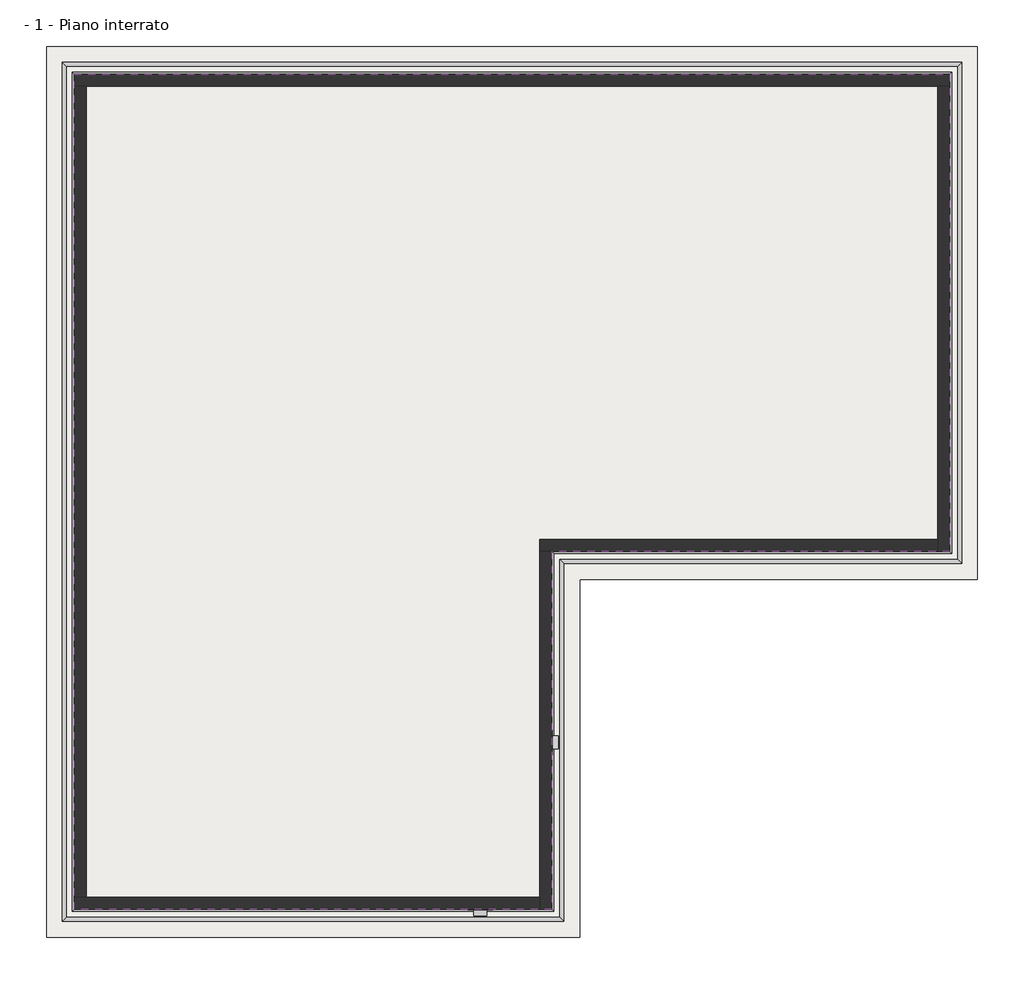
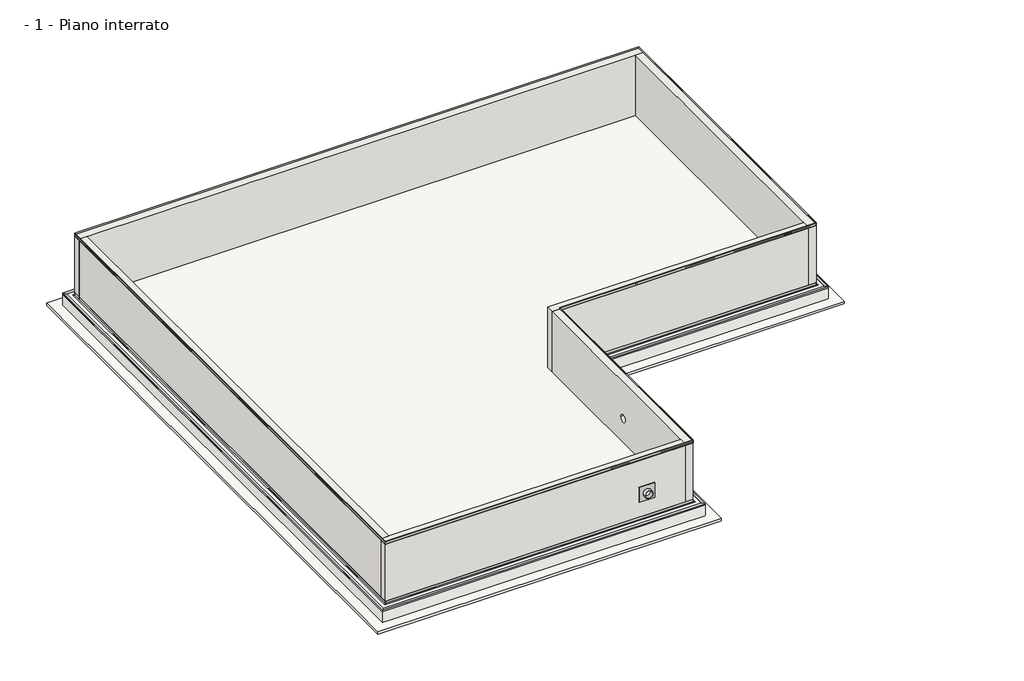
# One storey: 7 proxies, 6 walls, 2 slabs.
"""IFC4 building model written with IfcOpenShell, lengths in millimetres."""

import ifcopenshell
import ifcopenshell.guid

model = None  # the IFC model being written
_history = None  # IfcOwnerHistory: only IFC2X3 demands one
_inside = {}  # id of a spatial element -> (the spatial element, [elements in it])
_under = {}  # id of a project, library or spatial element -> (it, [spatial elements below it])
_declared = {}  # id of a project -> (the project, [libraries it declares])
_typed = {}  # id of a type object -> (the type object, [elements of that type])
_made_of = {}  # id of a material, layer set ... -> (it, [elements and type objects made of it])


def new_model(schema):
    """Start an empty IFC model of exactly this schema.

    Asked for "IFC4X3", IfcOpenShell would pick the latest addendum, in which some entities
    have other attributes; the version numbers below select the first issue.
    IFC2X3 requires an IfcOwnerHistory on every rooted entity: one is made here for all.
    """
    global model, _history
    if schema == "IFC4X3":
        model = ifcopenshell.file(schema_version=(4, 3, 0, 0))
    else:
        model = ifcopenshell.file(schema=schema)
    _inside.clear()
    _under.clear()
    _declared.clear()
    _typed.clear()
    _made_of.clear()
    _history = None
    if model.schema == "IFC2X3":
        org = make("IfcOrganization", Name="unknown")
        user = make(
            "IfcPersonAndOrganization",
            ThePerson=make("IfcPerson", FamilyName="unknown"),
            TheOrganization=org,
        )
        app = make(
            "IfcApplication",
            ApplicationDeveloper=org,
            Version="unknown",
            ApplicationFullName="unknown",
            ApplicationIdentifier="unknown",
        )
        _history = make(
            "IfcOwnerHistory",
            OwningUser=user,
            OwningApplication=app,
            ChangeAction="ADDED",
            CreationDate=0,
        )
    return model


def make(cls, **values):
    """One entity of the class cls with the attributes given. An attribute that is None is left unset."""
    return model.create_entity(
        cls, **{name: value for name, value in values.items() if value is not None}
    )


def rooted(cls, **values):
    """An entity with a GlobalId (a new one), such as an element, a storey or a relation."""
    return make(cls, GlobalId=ifcopenshell.guid.new(), OwnerHistory=_history, **values)


def si_unit(unit_type, name, prefix=None):
    """IfcSIUnit, for example si_unit("LENGTHUNIT", "METRE", prefix="MILLI")."""
    return make("IfcSIUnit", UnitType=unit_type, Prefix=prefix, Name=name)


def assignment(units):
    """IfcUnitAssignment: the units of a project."""
    return None if units is None else make("IfcUnitAssignment", Units=units)


def point(xyz):
    """IfcCartesianPoint."""
    return None if xyz is None else make("IfcCartesianPoint", Coordinates=xyz)


def direction(xyz):
    """IfcDirection."""
    return None if xyz is None else make("IfcDirection", DirectionRatios=xyz)


def frame(location, z_axis=None, x_axis=None):
    """IfcAxis2Placement3D, a coordinate frame: its origin and axes. An axis left out is left unset."""
    return make(
        "IfcAxis2Placement3D",
        Location=point(location),
        Axis=direction(z_axis),
        RefDirection=direction(x_axis),
    )


def frame_2d(location, x_axis=None):
    """IfcAxis2Placement2D, a coordinate frame in the plane: its origin and x axis."""
    return make(
        "IfcAxis2Placement2D", Location=point(location), RefDirection=direction(x_axis)
    )


def origin():
    """The frame at (0, 0, 0) with its axes left unset."""
    return frame((0.0, 0.0, 0.0))


def origin_with_axes():
    """The frame at (0, 0, 0) with the z axis (0, 0, 1) and the x axis (1, 0, 0) written out."""
    return frame((0.0, 0.0, 0.0), z_axis=(0.0, 0.0, 1.0), x_axis=(1.0, 0.0, 0.0))


def origin_2d():
    """The frame at (0, 0) in the plane with its x axis left unset."""
    return frame_2d((0.0, 0.0))


def place(relative_to, where):
    """IfcLocalPlacement: puts the frame where relative to a parent placement (None: the world)."""
    return make(
        "IfcLocalPlacement", PlacementRelTo=relative_to, RelativePlacement=where
    )


def context(
    kind, dimensions, precision=None, world=None, true_north=None, identifier=None
):
    """IfcGeometricRepresentationContext, for example the 3D "Model" context."""
    return make(
        "IfcGeometricRepresentationContext",
        ContextIdentifier=identifier,
        ContextType=kind,
        CoordinateSpaceDimension=dimensions,
        Precision=precision,
        WorldCoordinateSystem=world,
        TrueNorth=true_north,
    )


def project(units=None, contexts=None):
    """IfcProject with its units and contexts."""
    return rooted(
        "IfcProject",
        Name="project",
        RepresentationContexts=contexts,
        UnitsInContext=assignment(units),
    )


def spatial(cls, under=None, at=None, **own):
    """A site, building, storey or space (cls), placed at a placement, below another one or the project."""
    s = rooted(cls, ObjectPlacement=at, **own)
    if under is not None:
        _under.setdefault(under.id(), (under, []))[1].append(s)
    return s


def polyline(points):
    """IfcPolyline through the points."""
    return make("IfcPolyline", Points=[point(p) for p in points])


def circle_curve(where, radius):
    """IfcCircle in the frame where."""
    return make("IfcCircle", Position=where, Radius=radius)


def trimmed(basis, trim1, trim2, sense, master):
    """IfcTrimmedCurve: the piece of a basis curve between two trims."""
    return make(
        "IfcTrimmedCurve",
        BasisCurve=basis,
        Trim1=trim1,
        Trim2=trim2,
        SenseAgreement=sense,
        MasterRepresentation=master,
    )


def segment(curve, same_sense, transition):
    """IfcCompositeCurveSegment."""
    return make(
        "IfcCompositeCurveSegment",
        Transition=transition,
        SameSense=same_sense,
        ParentCurve=curve,
    )


def composite_curve(segments, self_intersect=None):
    """IfcCompositeCurve: segments joined end to end."""
    return make("IfcCompositeCurve", Segments=segments, SelfIntersect=self_intersect)


def outline(outer, holes=None, kind="AREA"):
    """IfcArbitraryClosedProfileDef: a profile drawn as a closed curve; with holes, ...WithVoids."""
    if holes is None:
        return make("IfcArbitraryClosedProfileDef", ProfileType=kind, OuterCurve=outer)
    return make(
        "IfcArbitraryProfileDefWithVoids",
        ProfileType=kind,
        OuterCurve=outer,
        InnerCurves=holes,
    )


def extrude(swept, where, along, depth):
    """IfcExtrudedAreaSolid: the profile swept, set in the frame where, extruded along a direction by depth."""
    return make(
        "IfcExtrudedAreaSolid",
        SweptArea=swept,
        Position=where,
        ExtrudedDirection=direction(along),
        Depth=depth,
    )


def faces_of(points, faces, orient=None, outer=None):
    """IfcFace entities. A face is a list of loops; a loop is a list of indices into points, from 0.

    orient and outer hold one flag for each loop. By default every Orientation is true, the
    first loop of a face is its IfcFaceOuterBound and the others are IfcFaceBound.
    """
    made = []
    for i, loops in enumerate(faces):
        bounds = []
        for j, loop in enumerate(loops):
            is_outer = j == 0 if outer is None else outer[i][j]
            bounds.append(
                make(
                    "IfcFaceOuterBound" if is_outer else "IfcFaceBound",
                    Bound=make("IfcPolyLoop", Polygon=[points[k] for k in loop]),
                    Orientation=True if orient is None else orient[i][j],
                )
            )
        made.append(make("IfcFace", Bounds=bounds))
    return made


def faceted_brep(points, faces, orient=None, outer=None, voids=None):
    """IfcFacetedBrep: a solid bounded by flat faces; with voids (closed shells), ...WithVoids."""
    shared = [point(p) for p in points]
    hull = make("IfcClosedShell", CfsFaces=faces_of(shared, faces, orient, outer))
    if voids is None:
        return make("IfcFacetedBrep", Outer=hull)
    return make(
        "IfcFacetedBrepWithVoids",
        Outer=hull,
        Voids=[
            make(cls, CfsFaces=faces_of(shared, fs, o, b)) for cls, fs, o, b in voids
        ],
    )


def shape(context_of_items, identifier, shape_type, items):
    """IfcShapeRepresentation: the items that make up one representation, for example the "Body"."""
    return make(
        "IfcShapeRepresentation",
        ContextOfItems=context_of_items,
        RepresentationIdentifier=identifier,
        RepresentationType=shape_type,
        Items=items,
    )


def source(mapping_origin, context_of_items, identifier, shape_type, items):
    """IfcRepresentationMap: a shape defined once, which mapped items show again and again."""
    return make(
        "IfcRepresentationMap",
        MappingOrigin=mapping_origin,
        MappedRepresentation=shape(context_of_items, identifier, shape_type, items),
    )


def transform(
    local_origin,
    x_axis=None,
    y_axis=None,
    z_axis=None,
    scale=None,
    scale2=None,
    scale3=None,
    uniform=True,
):
    """IfcCartesianTransformationOperator3D, or its non-uniform kind. x_axis, y_axis, z_axis: its Axis1, 2, 3."""
    if uniform:
        return make(
            "IfcCartesianTransformationOperator3D",
            Axis1=direction(x_axis),
            Axis2=direction(y_axis),
            LocalOrigin=point(local_origin),
            Scale=scale,
            Axis3=direction(z_axis),
        )
    return make(
        "IfcCartesianTransformationOperator3DnonUniform",
        Axis1=direction(x_axis),
        Axis2=direction(y_axis),
        LocalOrigin=point(local_origin),
        Scale=scale,
        Axis3=direction(z_axis),
        Scale2=scale2,
        Scale3=scale3,
    )


def mapped(mapping_source, mapping_target):
    """IfcMappedItem: shows the shape of a source again, moved by a transform."""
    return make(
        "IfcMappedItem", MappingSource=mapping_source, MappingTarget=mapping_target
    )


def made_of(thing, what):
    """Note that an element or type object is made of a material, layer set ...; save() writes the relation."""
    if what is not None:
        _made_of.setdefault(what.id(), (what, []))[1].append(thing)
    return thing


def element(
    cls,
    number,
    at=None,
    inside=None,
    cuts=None,
    type_object=None,
    material=None,
    context=None,
    identifier="Body",
    shape_type=None,
    held_by="IfcProductDefinitionShape",
    body=None,
    shapes=None,
    **own,
):
    """One element of the class cls, such as IfcWall. Its Tag is "e" and its number.

    at: its placement. inside: the storey or other place that contains it. cuts: it is an
    opening in that element (IfcRelVoidsElement). A single representation is given by context,
    identifier, shape_type and body (its items); several are given by shapes. held_by: the class
    of the entity that holds the representations. save() writes the other relations.
    """
    e = rooted(cls, Tag="e%d" % number, ObjectPlacement=at, **own)
    if body is not None:
        shapes = [shape(context, identifier, shape_type, body)]
    if shapes is not None:
        e.Representation = make(held_by, Representations=shapes)
    if inside is not None:
        _inside.setdefault(inside.id(), (inside, []))[1].append(e)
    if cuts is not None:
        rooted(
            "IfcRelVoidsElement", RelatingBuildingElement=cuts, RelatedOpeningElement=e
        )
    if type_object is not None:
        _typed.setdefault(type_object.id(), (type_object, []))[1].append(e)
    return made_of(e, material)


def aggregate(whole, parts):
    """IfcRelAggregates: a whole, such as a stair, and the parts it consists of."""
    return rooted("IfcRelAggregates", RelatingObject=whole, RelatedObjects=parts)


def save(model, path):
    """Write the relations noted so far, then the file.

    IfcRelAggregates (storeys below a building ...), IfcRelContainedInSpatialStructure (elements
    in a storey), IfcRelDefinesByType, IfcRelAssociatesMaterial and IfcRelDeclares: one each for
    every whole, place, type object, material and project.
    """
    for whole, parts in _under.values():
        aggregate(whole, parts)
    for where, things in _inside.values():
        rooted(
            "IfcRelContainedInSpatialStructure",
            RelatedElements=things,
            RelatingStructure=where,
        )
    for kind, things in _typed.values():
        rooted("IfcRelDefinesByType", RelatedObjects=things, RelatingType=kind)
    for what, things in _made_of.values():
        rooted("IfcRelAssociatesMaterial", RelatedObjects=things, RelatingMaterial=what)
    for by, libraries in _declared.values():
        rooted("IfcRelDeclares", RelatingContext=by, RelatedDefinitions=libraries)
    model.write(path)


def plane_surface(at):
    """IfcPlane: the flat surface through the origin of the frame at, square to its z axis."""
    return make("IfcPlane", Position=at)


def revolved_surface(curve, axis_point, axis_direction):
    """IfcSurfaceOfRevolution: the curve turned about the line through axis_point along axis_direction."""
    return make(
        "IfcSurfaceOfRevolution",
        SweptCurve=make("IfcArbitraryOpenProfileDef", ProfileType="CURVE", Curve=curve),
        AxisPosition=make("IfcAxis1Placement", Location=point(axis_point), Axis=direction(axis_direction)),
    )


def advanced_brep(points, edges, surfaces, faces):
    """IfcAdvancedBrep: a solid bounded by faces that lie on surfaces and meet in shared edges.

    An edge is (start, end): straight between two places in points (the first is 0);
    or (start, end, curve); or (start, end, curve, False) where it runs against its curve.
    A face is (place in surfaces, loops), or (place, loops, False) where it looks against
    its surface's normal. A loop lists edges by number (the first is 1), with a minus sign
    where the edge is run from its end to its start. The first loop is the outer one.
    """
    corners = [point(p) for p in points]
    vertices = [make("IfcVertexPoint", VertexGeometry=c) for c in corners]
    made = []
    for start, end, *more in edges:
        made.append(
            make(
                "IfcEdgeCurve",
                EdgeStart=vertices[start],
                EdgeEnd=vertices[end],
                EdgeGeometry=more[0] if more else make("IfcPolyline", Points=[corners[start], corners[end]]),
                SameSense=more[1] if len(more) > 1 else True,
            )
        )
    hull = []
    for where, loops, *sense in faces:
        bounds = []
        for j, loop in enumerate(loops):
            ring = [make("IfcOrientedEdge", EdgeElement=made[abs(k) - 1], Orientation=k > 0) for k in loop]
            bounds.append(
                make(
                    "IfcFaceOuterBound" if j == 0 else "IfcFaceBound",
                    Bound=make("IfcEdgeLoop", EdgeList=ring),
                    Orientation=True,
                )
            )
        hull.append(make("IfcAdvancedFace", Bounds=bounds, FaceSurface=surfaces[where], SameSense=sense[0] if sense else True))
    return make("IfcAdvancedBrep", Outer=make("IfcClosedShell", CfsFaces=hull))


def generic_models_91e2fdae(model_context):
    return source(origin(), model_context, "Body", "SweptSolid", [
        extrude(outline(composite_curve([segment(trimmed(circle_curve(origin_2d(), 160.0), [point((-160.0, 0.0))], [point((160.0, 0.0))], False, "CARTESIAN"), True, "CONTINUOUS"), segment(trimmed(circle_curve(origin_2d(), 160.0), [point((160.0, 0.0))], [point((-160.0, 0.0))], False, "CARTESIAN"), True, "CONTINUOUS")], self_intersect=False), holes=[composite_curve([segment(trimmed(circle_curve(origin_2d(), 150.0), [point((-150.0, 0.0))], [point((150.0, 0.0))], True, "CARTESIAN"), True, "CONTINUOUS"), segment(trimmed(circle_curve(origin_2d(), 150.0), [point((150.0, 0.0))], [point((-150.0, 0.0))], True, "CARTESIAN"), True, "CONTINUOUS")], self_intersect=False)]), frame((0.0, 0.0, 10.0), z_axis=(0.0, 0.0, 1.0), x_axis=(1.0, 0.0, 0.0)), (0.0, 0.0, 1.0), 150.0),
        extrude(outline(polyline([(310.0, 310.0), (310.0, -310.0), (-310.0, -310.0), (-310.0, 310.0), (310.0, 310.0)]), holes=[composite_curve([segment(trimmed(circle_curve(origin_2d(), 150.0), [point((-150.0, 0.0))], [point((150.0, 0.0))], True, "CARTESIAN"), True, "CONTINUOUS"), segment(trimmed(circle_curve(origin_2d(), 150.0), [point((150.0, 0.0))], [point((-150.0, 0.0))], True, "CARTESIAN"), True, "CONTINUOUS")], self_intersect=False)]), origin_with_axes(), (0.0, 0.0, 1.0), 10.0),
    ])


model = new_model("IFC4")

# Units and contexts
model_context = context("Model", 3, world=origin())
ifc_project = project(units=[si_unit("LENGTHUNIT", "METRE", prefix="MILLI")], contexts=[model_context])

# Site, building, storey
site = spatial("IfcSite", under=ifc_project)
building = spatial("IfcBuilding", under=site)
storey = spatial("IfcBuildingStorey", under=building, Name="- 1 - Piano interrato", Elevation=-2500.0)

# Proxies
placement = place(None, origin())
element("IfcBuildingElementProxy", 1, Name="AMPHIBIA CORNER 90° VOLTECO", ObjectType="AMPHIBIA CORNER 90° VOLTECO", at=placement, inside=storey, context=model_context, shape_type="Brep", body=[
    faceted_brep([(14482.2184345, 11190.2450177, -2550.0), (14481.2184345, 11189.2450177, -2550.0), (-8118.7815655, 11189.2450177, -2550.0), (-8119.7815655, 11190.2450177, -2550.0), (14482.2184345, 11190.2450177, -2499.0), (-8119.7815655, 11190.2450177, -2499.0), (14381.2184345, 11089.2450177, -2499.0), (-8018.7815655, 11089.2450177, -2499.0), (14381.2184345, 11089.2450177, -2500.0), (-8018.7815655, 11089.2450177, -2500.0), (14481.2184345, 11189.2450177, -2500.0), (-8118.7815655, 11189.2450177, -2500.0), (-8118.7815655, -10410.7549823, -2550.0), (-8119.7815655, -10411.7549823, -2550.0), (-8119.7815655, -10411.7549823, -2499.0), (-8018.7815655, -10310.7549823, -2499.0), (-8018.7815655, -10310.7549823, -2500.0), (-8118.7815655, -10410.7549823, -2500.0), (4481.2184345, -10410.7549823, -2550.0), (4482.2184345, -10411.7549823, -2550.0), (4482.2184345, -10411.7549823, -2499.0), (4381.2184345, -10310.7549823, -2499.0), (4381.2184345, -10310.7549823, -2500.0), (4481.2184345, -10410.7549823, -2500.0), (4481.2184345, -1410.7549823, -2550.0), (4482.2184345, -1411.7549823, -2550.0), (4482.2184345, -1411.7549823, -2499.0), (4381.2184345, -1310.7549823, -2499.0), (4381.2184345, -1310.7549823, -2500.0), (4481.2184345, -1410.7549823, -2500.0), (14481.2184345, -1410.7549823, -2550.0), (14482.2184345, -1411.7549823, -2550.0), (14482.2184345, -1411.7549823, -2499.0), (14381.2184345, -1310.7549823, -2499.0), (14381.2184345, -1310.7549823, -2500.0), (14481.2184345, -1410.7549823, -2500.0)], [[[0, 1, 2, 3]], [[4, 0, 3, 5]], [[6, 4, 5, 7]], [[8, 6, 7, 9]], [[10, 8, 9, 11]], [[1, 10, 11, 2]], [[3, 2, 12, 13]], [[5, 3, 13, 14]], [[7, 5, 14, 15]], [[9, 7, 15, 16]], [[11, 9, 16, 17]], [[2, 11, 17, 12]], [[13, 12, 18, 19]], [[14, 13, 19, 20]], [[15, 14, 20, 21]], [[16, 15, 21, 22]], [[17, 16, 22, 23]], [[12, 17, 23, 18]], [[19, 18, 24, 25]], [[20, 19, 25, 26]], [[21, 20, 26, 27]], [[22, 21, 27, 28]], [[23, 22, 28, 29]], [[18, 23, 29, 24]], [[25, 24, 30, 31]], [[26, 25, 31, 32]], [[27, 26, 32, 33]], [[28, 27, 33, 34]], [[29, 28, 34, 35]], [[24, 29, 35, 30]], [[1, 0, 31, 30]], [[0, 4, 32, 31]], [[4, 6, 33, 32]], [[6, 8, 34, 33]], [[8, 10, 35, 34]], [[10, 1, 30, 35]]]),
])
element("IfcBuildingElementProxy", 2, Name="AKTI-VO 201 VOLTECO", ObjectType="AKTI-VO 201 VOLTECO", at=placement, inside=storey, context=model_context, shape_type="SweptSolid", body=[
    extrude(outline(polyline([(14205.1184345, 10913.1450177), (14206.1184345, 10914.1450177), (14206.1184345, -1135.6549823), (14205.1184345, -1134.6549823), (14205.1184345, 10913.1450177)])), frame((0.0, 0.0, -2500.0), z_axis=(0.0, 0.0, 1.0), x_axis=(1.0, 0.0, 0.0)), (0.0, 0.0, 1.0), 1.0),
    extrude(outline(polyline([(14205.1184345, -1134.6549823), (14206.1184345, -1135.6549823), (4206.1184345, -1135.6549823), (4205.1184345, -1134.6549823), (14205.1184345, -1134.6549823)])), frame((0.0, 0.0, -2500.0), z_axis=(0.0, 0.0, 1.0), x_axis=(1.0, 0.0, 0.0)), (0.0, 0.0, 1.0), 1.0),
    extrude(outline(polyline([(4205.1184345, -1134.6549823), (4206.1184345, -1135.6549823), (4206.1184345, -10135.6549823), (4205.1184345, -10134.6549823), (4205.1184345, -1134.6549823)])), frame((0.0, 0.0, -2500.0), z_axis=(0.0, 0.0, 1.0), x_axis=(1.0, 0.0, 0.0)), (0.0, 0.0, 1.0), 1.0),
    extrude(outline(polyline([(4205.1184345, -10134.6549823), (4206.1184345, -10135.6549823), (-7843.6815655, -10135.6549823), (-7842.6815655, -10134.6549823), (4205.1184345, -10134.6549823)])), frame((0.0, 0.0, -2500.0), z_axis=(0.0, 0.0, 1.0), x_axis=(1.0, 0.0, 0.0)), (0.0, 0.0, 1.0), 1.0),
    extrude(outline(polyline([(-7842.6815655, 10913.1450177), (-7843.6815655, 10914.1450177), (14206.1184345, 10914.1450177), (14205.1184345, 10913.1450177), (-7842.6815655, 10913.1450177)])), frame((0.0, 0.0, -2500.0), z_axis=(0.0, 0.0, 1.0), x_axis=(1.0, 0.0, 0.0)), (0.0, 0.0, 1.0), 1.0),
    extrude(outline(polyline([(-7842.6815655, -10134.6549823), (-7843.6815655, -10135.6549823), (-7843.6815655, 10914.1450177), (-7842.6815655, 10913.1450177), (-7842.6815655, -10134.6549823)])), frame((0.0, 0.0, -2500.0), z_axis=(0.0, 0.0, 1.0), x_axis=(1.0, 0.0, 0.0)), (0.0, 0.0, 1.0), 1.0),
])
element("IfcBuildingElementProxy", 3, Name="AMPHIBIA CORNER 270° VOLTECO", ObjectType="AMPHIBIA CORNER 270° VOLTECO", at=placement, inside=storey, context=model_context, shape_type="Brep", body=[
    faceted_brep([(14232.2184345, 10940.2450177, -2498.0), (14232.2184345, 10940.2450177, -2499.0), (14181.2184345, 10889.2450177, -2499.0), (14181.2184345, 10889.2450177, -2398.0), (14182.2184345, 10890.2450177, -2398.0), (14182.2184345, 10890.2450177, -2498.0), (14232.2184345, -1161.7549823, -2498.0), (14182.2184345, -1111.7549823, -2498.0), (14182.2184345, -1111.7549823, -2398.0), (14181.2184345, -1110.7549823, -2398.0), (14181.2184345, -1110.7549823, -2499.0), (14232.2184345, -1161.7549823, -2499.0)], [[[0, 1, 2, 3, 4, 5]], [[6, 7, 8, 9, 10, 11]], [[1, 0, 6, 11]], [[2, 1, 11, 10]], [[3, 2, 10, 9]], [[4, 3, 9, 8]], [[5, 4, 8, 7]], [[0, 5, 7, 6]]]),
    faceted_brep([(-7869.7815655, 10940.2450177, -2498.0), (-7869.7815655, 10940.2450177, -2499.0), (-7818.7815655, 10889.2450177, -2499.0), (-7818.7815655, 10889.2450177, -2398.0), (-7819.7815655, 10890.2450177, -2398.0), (-7819.7815655, 10890.2450177, -2498.0), (14232.2184345, 10940.2450177, -2498.0), (14182.2184345, 10890.2450177, -2498.0), (14182.2184345, 10890.2450177, -2398.0), (14181.2184345, 10889.2450177, -2398.0), (14181.2184345, 10889.2450177, -2499.0), (14232.2184345, 10940.2450177, -2499.0)], [[[0, 1, 2, 3, 4, 5]], [[6, 7, 8, 9, 10, 11]], [[1, 0, 6, 11]], [[2, 1, 11, 10]], [[3, 2, 10, 9]], [[4, 3, 9, 8]], [[5, 4, 8, 7]], [[0, 5, 7, 6]]]),
    faceted_brep([(-7869.7815655, -10161.7549823, -2498.0), (-7869.7815655, -10161.7549823, -2499.0), (-7818.7815655, -10110.7549823, -2499.0), (-7818.7815655, -10110.7549823, -2398.0), (-7819.7815655, -10111.7549823, -2398.0), (-7819.7815655, -10111.7549823, -2498.0), (-7869.7815655, 10940.2450177, -2498.0), (-7819.7815655, 10890.2450177, -2498.0), (-7819.7815655, 10890.2450177, -2398.0), (-7818.7815655, 10889.2450177, -2398.0), (-7818.7815655, 10889.2450177, -2499.0), (-7869.7815655, 10940.2450177, -2499.0)], [[[0, 1, 2, 3, 4, 5]], [[6, 7, 8, 9, 10, 11]], [[1, 0, 6, 11]], [[2, 1, 11, 10]], [[3, 2, 10, 9]], [[4, 3, 9, 8]], [[5, 4, 8, 7]], [[0, 5, 7, 6]]]),
    faceted_brep([(4232.2184345, -10161.7549823, -2498.0), (4232.2184345, -10161.7549823, -2499.0), (4181.2184345, -10110.7549823, -2499.0), (4181.2184345, -10110.7549823, -2398.0), (4182.2184345, -10111.7549823, -2398.0), (4182.2184345, -10111.7549823, -2498.0), (-7869.7815655, -10161.7549823, -2498.0), (-7819.7815655, -10111.7549823, -2498.0), (-7819.7815655, -10111.7549823, -2398.0), (-7818.7815655, -10110.7549823, -2398.0), (-7818.7815655, -10110.7549823, -2499.0), (-7869.7815655, -10161.7549823, -2499.0)], [[[0, 1, 2, 3, 4, 5]], [[6, 7, 8, 9, 10, 11]], [[1, 0, 6, 11]], [[2, 1, 11, 10]], [[3, 2, 10, 9]], [[4, 3, 9, 8]], [[5, 4, 8, 7]], [[0, 5, 7, 6]]]),
    faceted_brep([(4232.2184345, -1161.7549823, -2498.0), (4232.2184345, -1161.7549823, -2499.0), (4181.2184345, -1110.7549823, -2499.0), (4181.2184345, -1110.7549823, -2398.0), (4182.2184345, -1111.7549823, -2398.0), (4182.2184345, -1111.7549823, -2498.0), (4232.2184345, -10161.7549823, -2498.0), (4182.2184345, -10111.7549823, -2498.0), (4182.2184345, -10111.7549823, -2398.0), (4181.2184345, -10110.7549823, -2398.0), (4181.2184345, -10110.7549823, -2499.0), (4232.2184345, -10161.7549823, -2499.0)], [[[0, 1, 2, 3, 4, 5]], [[6, 7, 8, 9, 10, 11]], [[1, 0, 6, 11]], [[2, 1, 11, 10]], [[3, 2, 10, 9]], [[4, 3, 9, 8]], [[5, 4, 8, 7]], [[0, 5, 7, 6]]]),
    faceted_brep([(14232.2184345, -1161.7549823, -2498.0), (14232.2184345, -1161.7549823, -2499.0), (14181.2184345, -1110.7549823, -2499.0), (14181.2184345, -1110.7549823, -2398.0), (14182.2184345, -1111.7549823, -2398.0), (14182.2184345, -1111.7549823, -2498.0), (4232.2184345, -1161.7549823, -2498.0), (4182.2184345, -1111.7549823, -2498.0), (4182.2184345, -1111.7549823, -2398.0), (4181.2184345, -1110.7549823, -2398.0), (4181.2184345, -1110.7549823, -2499.0), (4232.2184345, -1161.7549823, -2499.0)], [[[0, 1, 2, 3, 4, 5]], [[6, 7, 8, 9, 10, 11]], [[1, 0, 6, 11]], [[2, 1, 11, 10]], [[3, 2, 10, 9]], [[4, 3, 9, 8]], [[5, 4, 8, 7]], [[0, 5, 7, 6]]]),
])
element("IfcBuildingElementProxy", 4, Name="Sistema Bi Flex H 10 lineare", ObjectType="Sistema Bi Flex H 10 lineare", at=placement, inside=storey, context=model_context, shape_type="Brep", body=[
    faceted_brep([(4181.2184345, -1110.7549823, 62.0), (4183.7184345, -1113.2549823, 59.5), (4183.7184345, -1113.2549823, 52.5), (4184.7184345, -1114.2549823, 51.0), (4184.7184345, -1114.2549823, -49.0), (4183.7184345, -1113.2549823, -50.5), (4183.7184345, -1113.2549823, -57.5), (4181.2184345, -1110.7549823, -60.0), (4182.2184345, -1111.7549823, 51.0), (4182.2184345, -1111.7549823, -49.0), (4183.2184345, -1112.7549823, -49.0), (4183.2184345, -1112.7549823, 51.0), (4181.2184345, -10110.7549823, 62.0), (4181.2184345, -10110.7549823, -60.0), (4183.7184345, -10113.2549823, -57.5), (4183.7184345, -10113.2549823, -50.5), (4184.7184345, -10114.2549823, -49.0), (4184.7184345, -10114.2549823, 51.0), (4183.7184345, -10113.2549823, 52.5), (4183.7184345, -10113.2549823, 59.5), (4182.2184345, -10111.7549823, 51.0), (4183.2184345, -10112.7549823, 51.0), (4183.2184345, -10112.7549823, -49.0), (4182.2184345, -10111.7549823, -49.0)], [[[0, 1, 2, 3, 4, 5, 6, 7], [8, 9, 10, 11]], [[12, 13, 14, 15, 16, 17, 18, 19], [20, 21, 22, 23]], [[1, 0, 12, 19]], [[2, 1, 19, 18]], [[3, 2, 18, 17]], [[4, 3, 17, 16]], [[5, 4, 16, 15]], [[6, 5, 15, 14]], [[7, 6, 14, 13]], [[0, 7, 13, 12]], [[9, 8, 20, 23]], [[10, 9, 23, 22]], [[11, 10, 22, 21]], [[8, 11, 21, 20]]]),
    faceted_brep([(14181.2184345, -1110.7549823, 62.0), (14183.7184345, -1113.2549823, 59.5), (14183.7184345, -1113.2549823, 52.5), (14184.7184345, -1114.2549823, 51.0), (14184.7184345, -1114.2549823, -49.0), (14183.7184345, -1113.2549823, -50.5), (14183.7184345, -1113.2549823, -57.5), (14181.2184345, -1110.7549823, -60.0), (14182.2184345, -1111.7549823, 51.0), (14182.2184345, -1111.7549823, -49.0), (14183.2184345, -1112.7549823, -49.0), (14183.2184345, -1112.7549823, 51.0), (4181.2184345, -1110.7549823, 62.0), (4181.2184345, -1110.7549823, -60.0), (4183.7184345, -1113.2549823, -57.5), (4183.7184345, -1113.2549823, -50.5), (4184.7184345, -1114.2549823, -49.0), (4184.7184345, -1114.2549823, 51.0), (4183.7184345, -1113.2549823, 52.5), (4183.7184345, -1113.2549823, 59.5), (4182.2184345, -1111.7549823, 51.0), (4183.2184345, -1112.7549823, 51.0), (4183.2184345, -1112.7549823, -49.0), (4182.2184345, -1111.7549823, -49.0)], [[[0, 1, 2, 3, 4, 5, 6, 7], [8, 9, 10, 11]], [[12, 13, 14, 15, 16, 17, 18, 19], [20, 21, 22, 23]], [[1, 0, 12, 19]], [[2, 1, 19, 18]], [[3, 2, 18, 17]], [[4, 3, 17, 16]], [[5, 4, 16, 15]], [[6, 5, 15, 14]], [[7, 6, 14, 13]], [[0, 7, 13, 12]], [[9, 8, 20, 23]], [[10, 9, 23, 22]], [[11, 10, 22, 21]], [[8, 11, 21, 20]]]),
    faceted_brep([(14181.2184345, 10889.2450177, 62.0), (14183.7184345, 10891.7450177, 59.5), (14183.7184345, 10891.7450177, 52.5), (14184.7184345, 10892.7450177, 51.0), (14184.7184345, 10892.7450177, -49.0), (14183.7184345, 10891.7450177, -50.5), (14183.7184345, 10891.7450177, -57.5), (14181.2184345, 10889.2450177, -60.0), (14182.2184345, 10890.2450177, 51.0), (14182.2184345, 10890.2450177, -49.0), (14183.2184345, 10891.2450177, -49.0), (14183.2184345, 10891.2450177, 51.0), (14181.2184345, -1110.7549823, 62.0), (14181.2184345, -1110.7549823, -60.0), (14183.7184345, -1113.2549823, -57.5), (14183.7184345, -1113.2549823, -50.5), (14184.7184345, -1114.2549823, -49.0), (14184.7184345, -1114.2549823, 51.0), (14183.7184345, -1113.2549823, 52.5), (14183.7184345, -1113.2549823, 59.5), (14182.2184345, -1111.7549823, 51.0), (14183.2184345, -1112.7549823, 51.0), (14183.2184345, -1112.7549823, -49.0), (14182.2184345, -1111.7549823, -49.0)], [[[0, 1, 2, 3, 4, 5, 6, 7], [8, 9, 10, 11]], [[12, 13, 14, 15, 16, 17, 18, 19], [20, 21, 22, 23]], [[1, 0, 12, 19]], [[2, 1, 19, 18]], [[3, 2, 18, 17]], [[4, 3, 17, 16]], [[5, 4, 16, 15]], [[6, 5, 15, 14]], [[7, 6, 14, 13]], [[0, 7, 13, 12]], [[9, 8, 20, 23]], [[10, 9, 23, 22]], [[11, 10, 22, 21]], [[8, 11, 21, 20]]]),
    faceted_brep([(-7818.7815655, 10889.2450177, 62.0), (-7821.2815655, 10891.7450177, 59.5), (-7821.2815655, 10891.7450177, 52.5), (-7822.2815655, 10892.7450177, 51.0), (-7822.2815655, 10892.7450177, -49.0), (-7821.2815655, 10891.7450177, -50.5), (-7821.2815655, 10891.7450177, -57.5), (-7818.7815655, 10889.2450177, -60.0), (-7819.7815655, 10890.2450177, 51.0), (-7819.7815655, 10890.2450177, -49.0), (-7820.7815655, 10891.2450177, -49.0), (-7820.7815655, 10891.2450177, 51.0), (14181.2184345, 10889.2450177, 62.0), (14181.2184345, 10889.2450177, -60.0), (14183.7184345, 10891.7450177, -57.5), (14183.7184345, 10891.7450177, -50.5), (14184.7184345, 10892.7450177, -49.0), (14184.7184345, 10892.7450177, 51.0), (14183.7184345, 10891.7450177, 52.5), (14183.7184345, 10891.7450177, 59.5), (14182.2184345, 10890.2450177, 51.0), (14183.2184345, 10891.2450177, 51.0), (14183.2184345, 10891.2450177, -49.0), (14182.2184345, 10890.2450177, -49.0)], [[[0, 1, 2, 3, 4, 5, 6, 7], [8, 9, 10, 11]], [[12, 13, 14, 15, 16, 17, 18, 19], [20, 21, 22, 23]], [[1, 0, 12, 19]], [[2, 1, 19, 18]], [[3, 2, 18, 17]], [[4, 3, 17, 16]], [[5, 4, 16, 15]], [[6, 5, 15, 14]], [[7, 6, 14, 13]], [[0, 7, 13, 12]], [[9, 8, 20, 23]], [[10, 9, 23, 22]], [[11, 10, 22, 21]], [[8, 11, 21, 20]]]),
    faceted_brep([(-7818.7815655, -10110.7549823, 62.0), (-7821.2815655, -10113.2549823, 59.5), (-7821.2815655, -10113.2549823, 52.5), (-7822.2815655, -10114.2549823, 51.0), (-7822.2815655, -10114.2549823, -49.0), (-7821.2815655, -10113.2549823, -50.5), (-7821.2815655, -10113.2549823, -57.5), (-7818.7815655, -10110.7549823, -60.0), (-7819.7815655, -10111.7549823, 51.0), (-7819.7815655, -10111.7549823, -49.0), (-7820.7815655, -10112.7549823, -49.0), (-7820.7815655, -10112.7549823, 51.0), (-7818.7815655, 10889.2450177, 62.0), (-7818.7815655, 10889.2450177, -60.0), (-7821.2815655, 10891.7450177, -57.5), (-7821.2815655, 10891.7450177, -50.5), (-7822.2815655, 10892.7450177, -49.0), (-7822.2815655, 10892.7450177, 51.0), (-7821.2815655, 10891.7450177, 52.5), (-7821.2815655, 10891.7450177, 59.5), (-7819.7815655, 10890.2450177, 51.0), (-7820.7815655, 10891.2450177, 51.0), (-7820.7815655, 10891.2450177, -49.0), (-7819.7815655, 10890.2450177, -49.0)], [[[0, 1, 2, 3, 4, 5, 6, 7], [8, 9, 10, 11]], [[12, 13, 14, 15, 16, 17, 18, 19], [20, 21, 22, 23]], [[1, 0, 12, 19]], [[2, 1, 19, 18]], [[3, 2, 18, 17]], [[4, 3, 17, 16]], [[5, 4, 16, 15]], [[6, 5, 15, 14]], [[7, 6, 14, 13]], [[0, 7, 13, 12]], [[9, 8, 20, 23]], [[10, 9, 23, 22]], [[11, 10, 22, 21]], [[8, 11, 21, 20]]]),
    faceted_brep([(4181.2184345, -10110.7549823, 62.0), (4183.7184345, -10113.2549823, 59.5), (4183.7184345, -10113.2549823, 52.5), (4184.7184345, -10114.2549823, 51.0), (4184.7184345, -10114.2549823, -49.0), (4183.7184345, -10113.2549823, -50.5), (4183.7184345, -10113.2549823, -57.5), (4181.2184345, -10110.7549823, -60.0), (4182.2184345, -10111.7549823, 51.0), (4182.2184345, -10111.7549823, -49.0), (4183.2184345, -10112.7549823, -49.0), (4183.2184345, -10112.7549823, 51.0), (-7818.7815655, -10110.7549823, 62.0), (-7818.7815655, -10110.7549823, -60.0), (-7821.2815655, -10113.2549823, -57.5), (-7821.2815655, -10113.2549823, -50.5), (-7822.2815655, -10114.2549823, -49.0), (-7822.2815655, -10114.2549823, 51.0), (-7821.2815655, -10113.2549823, 52.5), (-7821.2815655, -10113.2549823, 59.5), (-7819.7815655, -10111.7549823, 51.0), (-7820.7815655, -10112.7549823, 51.0), (-7820.7815655, -10112.7549823, -49.0), (-7819.7815655, -10111.7549823, -49.0)], [[[0, 1, 2, 3, 4, 5, 6, 7], [8, 9, 10, 11]], [[12, 13, 14, 15, 16, 17, 18, 19], [20, 21, 22, 23]], [[1, 0, 12, 19]], [[2, 1, 19, 18]], [[3, 2, 18, 17]], [[4, 3, 17, 16]], [[5, 4, 16, 15]], [[6, 5, 15, 14]], [[7, 6, 14, 13]], [[0, 7, 13, 12]], [[9, 8, 20, 23]], [[10, 9, 23, 22]], [[11, 10, 22, 21]], [[8, 11, 21, 20]]]),
])
element("IfcBuildingElementProxy", 5, Name="WT 102 Volteco", ObjectType="WT 102 Volteco", at=placement, inside=storey, context=model_context, shape_type="SweptSolid", body=[
    extrude(outline(polyline([(4021.2184345, -950.7549823), (4041.2184345, -970.7549823), (4041.2184345, -9970.7549823), (4021.2184345, -9950.7549823), (4021.2184345, -950.7549823)])), frame((0.0, 0.0, -2500.0), z_axis=(0.0, 0.0, 1.0), x_axis=(1.0, 0.0, 0.0)), (0.0, 0.0, 1.0), 20.0),
    extrude(outline(polyline([(4021.2184345, -9950.7549823), (4041.2184345, -9970.7549823), (-7678.7815655, -9970.7549823), (-7658.7815655, -9950.7549823), (4021.2184345, -9950.7549823)])), frame((0.0, 0.0, -2500.0), z_axis=(0.0, 0.0, 1.0), x_axis=(1.0, 0.0, 0.0)), (0.0, 0.0, 1.0), 20.0),
    extrude(outline(polyline([(-7658.7815655, -9950.7549823), (-7678.7815655, -9970.7549823), (-7678.7815655, 10749.2450177), (-7658.7815655, 10729.2450177), (-7658.7815655, -9950.7549823)])), frame((0.0, 0.0, -2500.0), z_axis=(0.0, 0.0, 1.0), x_axis=(1.0, 0.0, 0.0)), (0.0, 0.0, 1.0), 20.0),
    extrude(outline(polyline([(-7658.7815655, 10729.2450177), (-7678.7815655, 10749.2450177), (14041.2184345, 10749.2450177), (14021.2184345, 10729.2450177), (-7658.7815655, 10729.2450177)])), frame((0.0, 0.0, -2500.0), z_axis=(0.0, 0.0, 1.0), x_axis=(1.0, 0.0, 0.0)), (0.0, 0.0, 1.0), 20.0),
    extrude(outline(polyline([(14021.2184345, 10729.2450177), (14041.2184345, 10749.2450177), (14041.2184345, -970.7549823), (14021.2184345, -950.7549823), (14021.2184345, 10729.2450177)])), frame((0.0, 0.0, -2500.0), z_axis=(0.0, 0.0, 1.0), x_axis=(1.0, 0.0, 0.0)), (0.0, 0.0, 1.0), 20.0),
    extrude(outline(polyline([(14021.2184345, -950.7549823), (14041.2184345, -970.7549823), (4041.2184345, -970.7549823), (4021.2184345, -950.7549823), (14021.2184345, -950.7549823)])), frame((0.0, 0.0, -2500.0), z_axis=(0.0, 0.0, 1.0), x_axis=(1.0, 0.0, 0.0)), (0.0, 0.0, 1.0), 20.0),
])
generic_models_shape = generic_models_91e2fdae(model_context)
element("IfcBuildingElementProxy", 6, Name="ITA-VOLTECO Amphibia Tubo : ITA-VOLTECO Amphibia Tubo", ObjectType="ITA-VOLTECO Amphibia Tubo : ITA-VOLTECO Amphibia Tubo", at=placement, inside=storey, context=model_context, shape_type="MappedRepresentation", body=[
    mapped(generic_models_shape, transform((4181.2184345, -5910.7549823, -1500.3520841), x_axis=(0.0, 1.0, 0.0), y_axis=(0.0, 0.0, 1.0), z_axis=(1.0, 0.0, 0.0))),
])
element("IfcBuildingElementProxy", 7, Name="ITA-VOLTECO Amphibia Tubo : ITA-VOLTECO Amphibia Tubo", ObjectType="ITA-VOLTECO Amphibia Tubo : ITA-VOLTECO Amphibia Tubo", at=placement, inside=storey, context=model_context, shape_type="MappedRepresentation", body=[
    mapped(generic_models_shape, transform((2381.2184345, -10110.7549823, -1471.2981482), x_axis=(1.0, 0.0, 0.0), y_axis=(0.0, 0.0, 1.0), z_axis=(0.0, -1.0, 0.0))),
])

# Slabs
element("IfcSlab", 8, ObjectType="Magrone - 10 cm", at=placement, inside=storey, context=model_context, shape_type="SweptSolid", body=[
    extrude(outline(polyline([(14881.2184345, 11589.2450177), (14881.2184345, -1810.7549823), (4881.2184345, -1810.7549823), (4881.2184345, -10810.7549823), (-8518.7815655, -10810.7549823), (-8518.7815655, 11589.2450177), (14881.2184345, 11589.2450177)])), frame((0.0, 0.0, -3100.0), z_axis=(0.0, 0.0, 1.0), x_axis=(1.0, 0.0, 0.0)), (0.0, 0.0, 1.0), 100.0),
])
element("IfcSlab", 9, ObjectType="Platea - 50 cm", at=placement, inside=storey, context=model_context, shape_type="Brep", body=[
    faceted_brep([(14481.2184345, 11189.2450177, -3000.0), (14481.2184345, -1410.7549823, -3000.0), (4481.2184345, -1410.7549823, -3000.0), (4481.2184345, -10410.7549823, -3000.0), (-8118.7815655, -10410.7549823, -3000.0), (-8118.7815655, 11189.2450177, -3000.0), (14481.2184345, 11189.2450177, -2500.0), (-8118.7815655, 11189.2450177, -2500.0), (-8118.7815655, -10410.7549823, -2500.0), (4481.2184345, -10410.7549823, -2500.0), (4481.2184345, -1410.7549823, -2500.0), (14481.2184345, -1410.7549823, -2500.0), (14481.2184345, 11189.2450177, -2550.0), (14481.2184345, -1410.7549823, -2550.0), (4481.2184345, -1410.7549823, -2550.0), (4481.2184345, -10410.7549823, -2550.0), (-8118.7815655, -10410.7549823, -2550.0), (-8118.7815655, 11189.2450177, -2550.0)], [[[0, 1, 2, 3, 4, 5]], [[6, 7, 8, 9, 10, 11]], [[1, 0, 12, 6, 11, 13]], [[2, 1, 13, 11, 10, 14]], [[3, 2, 14, 10, 9, 15]], [[4, 3, 15, 9, 8, 16]], [[5, 4, 16, 8, 7, 17]], [[0, 5, 17, 7, 6, 12]]]),
])

# Walls
element("IfcWall", 10, ObjectType="Fondazione - 30 cm", at=placement, inside=storey, context=model_context, shape_type="Brep", body=[
    faceted_brep([(14181.2184345, 10589.2450177, 0.0), (13881.2184345, 10589.2450177, 0.0), (-7518.7815655, 10589.2450177, 0.0), (-7818.7815655, 10589.2450177, 0.0), (-7818.7815655, 10589.2450177, -60.0), (-7818.7815655, 10589.2450177, -2398.0), (-7818.7815655, 10589.2450177, -2499.0), (-7818.7815655, 10589.2450177, -2500.0), (-7678.7815655, 10589.2450177, -2500.0), (-7678.7815655, 10589.2450177, -2480.0), (-7658.7815655, 10589.2450177, -2480.0), (-7658.7815655, 10589.2450177, -2500.0), (-7518.7815655, 10589.2450177, -2500.0), (13881.2184345, 10589.2450177, -2500.0), (14021.2184345, 10589.2450177, -2500.0), (14021.2184345, 10589.2450177, -2480.0), (14041.2184345, 10589.2450177, -2480.0), (14041.2184345, 10589.2450177, -2500.0), (14181.2184345, 10589.2450177, -2500.0), (14181.2184345, 10589.2450177, -2499.0), (14181.2184345, 10589.2450177, -2398.0), (14181.2184345, 10589.2450177, -60.0), (-7818.7815655, 10889.2450177, 0.0), (14181.2184345, 10889.2450177, 0.0), (14181.2184345, 10889.2450177, -60.0), (14181.2184345, 10889.2450177, -2398.0), (14181.2184345, 10889.2450177, -2499.0), (14181.2184345, 10889.2450177, -2500.0), (-7818.7815655, 10889.2450177, -2500.0), (-7818.7815655, 10889.2450177, -2499.0), (-7818.7815655, 10889.2450177, -2398.0), (-7818.7815655, 10889.2450177, -60.0), (14041.2184345, 10749.2450177, -2500.0), (-7678.7815655, 10749.2450177, -2500.0), (-7658.7815655, 10729.2450177, -2500.0), (14021.2184345, 10729.2450177, -2500.0), (-7658.7815655, 10729.2450177, -2480.0), (14021.2184345, 10729.2450177, -2480.0), (-7678.7815655, 10749.2450177, -2480.0), (14041.2184345, 10749.2450177, -2480.0)], [[[0, 1, 2, 3, 4, 5, 6, 7, 8, 9, 10, 11, 12, 13, 14, 15, 16, 17, 18, 19, 20, 21]], [[22, 23, 24, 25, 26, 27, 28, 29, 30, 31]], [[3, 2, 1, 0, 23, 22]], [[23, 0, 21, 20, 19, 18, 27, 26, 25, 24]], [[3, 22, 31, 30, 29, 28, 7, 6, 5, 4]], [[7, 28, 27, 18, 17, 32, 33, 8]], [[14, 13, 12, 11, 34, 35]], [[36, 34, 11, 10]], [[37, 36, 10, 9, 38, 39, 16, 15]], [[34, 36, 37, 35]], [[35, 37, 15, 14]], [[33, 38, 9, 8]], [[39, 38, 33, 32]], [[39, 32, 17, 16]]]),
])
element("IfcWall", 11, ObjectType="Fondazione - 30 cm", at=placement, inside=storey, context=model_context, shape_type="Brep", body=[
    faceted_brep([(13881.2184345, -1110.7549823, 0.0), (13881.2184345, -810.7549823, 0.0), (13881.2184345, 10589.2450177, 0.0), (13881.2184345, 10589.2450177, -2500.0), (13881.2184345, -810.7549823, -2500.0), (13881.2184345, -950.7549823, -2500.0), (13881.2184345, -950.7549823, -2480.0), (13881.2184345, -970.7549823, -2480.0), (13881.2184345, -970.7549823, -2500.0), (13881.2184345, -1110.7549823, -2500.0), (13881.2184345, -1110.7549823, -2499.0), (13881.2184345, -1110.7549823, -2398.0), (13881.2184345, -1110.7549823, -60.0), (14181.2184345, 10589.2450177, 0.0), (14181.2184345, -1110.7549823, 0.0), (14181.2184345, -1110.7549823, -60.0), (14181.2184345, -1110.7549823, -2398.0), (14181.2184345, -1110.7549823, -2499.0), (14181.2184345, -1110.7549823, -2500.0), (14181.2184345, 10589.2450177, -2500.0), (14181.2184345, 10589.2450177, -2499.0), (14181.2184345, 10589.2450177, -2398.0), (14181.2184345, 10589.2450177, -60.0), (14041.2184345, 10589.2450177, -2500.0), (14041.2184345, 10589.2450177, -2480.0), (14021.2184345, 10589.2450177, -2480.0), (14021.2184345, 10589.2450177, -2500.0), (14041.2184345, -970.7549823, -2500.0), (14021.2184345, -950.7549823, -2500.0), (14021.2184345, -950.7549823, -2480.0), (14041.2184345, -970.7549823, -2480.0)], [[[0, 1, 2, 3, 4, 5, 6, 7, 8, 9, 10, 11, 12]], [[13, 14, 15, 16, 17, 18, 19, 20, 21, 22]], [[2, 1, 0, 14, 13]], [[3, 2, 13, 22, 21, 20, 19, 23, 24, 25, 26]], [[14, 0, 12, 11, 10, 9, 18, 17, 16, 15]], [[19, 18, 9, 8, 27, 23]], [[5, 4, 3, 26, 28]], [[6, 29, 25, 24, 30, 7]], [[29, 28, 26, 25]], [[28, 29, 6, 5]], [[27, 30, 24, 23]], [[30, 27, 8, 7]]]),
])
element("IfcWall", 12, ObjectType="Fondazione - 30 cm", at=placement, inside=storey, context=model_context, shape_type="Brep", body=[
    faceted_brep([(3881.2184345, -810.7549823, 0.0), (13881.2184345, -810.7549823, 0.0), (13881.2184345, -810.7549823, -2500.0), (3881.2184345, -810.7549823, -2500.0), (3881.2184345, -1110.7549823, 0.0), (3881.2184345, -1110.7549823, -2500.0), (4021.2184345, -1110.7549823, -2500.0), (4021.2184345, -1110.7549823, -2480.0), (4041.2184345, -1110.7549823, -2480.0), (4041.2184345, -1110.7549823, -2500.0), (4181.2184345, -1110.7549823, -2500.0), (13881.2184345, -1110.7549823, -2500.0), (13881.2184345, -1110.7549823, -2499.0), (13881.2184345, -1110.7549823, -2398.0), (13881.2184345, -1110.7549823, -60.0), (13881.2184345, -1110.7549823, 0.0), (4181.2184345, -1110.7549823, 0.0), (13881.2184345, -970.7549823, -2500.0), (13881.2184345, -970.7549823, -2480.0), (13881.2184345, -950.7549823, -2480.0), (13881.2184345, -950.7549823, -2500.0), (4021.2184345, -950.7549823, -2500.0), (4041.2184345, -970.7549823, -2500.0), (4021.2184345, -950.7549823, -2480.0), (4041.2184345, -970.7549823, -2480.0)], [[[0, 1, 2, 3]], [[4, 5, 6, 7, 8, 9, 10, 11, 12, 13, 14, 15, 16]], [[1, 0, 4, 16, 15]], [[2, 1, 15, 14, 13, 12, 11, 17, 18, 19, 20]], [[0, 3, 5, 4]], [[3, 2, 20, 21, 6, 5]], [[11, 10, 9, 22, 17]], [[7, 23, 19, 18, 24, 8]], [[23, 21, 20, 19]], [[21, 23, 7, 6]], [[22, 24, 18, 17]], [[24, 22, 9, 8]]]),
])
element("IfcWall", 13, ObjectType="Fondazione - 30 cm", at=placement, inside=storey, context=model_context, shape_type="AdvancedBrep", body=[
    advanced_brep(
    [(3881.2184345, -10110.7549823, 0.0), (3881.2184345, -9810.7549823, 0.0), (3881.2184345, -1110.7549823, 0.0), (3881.2184345, -1110.7549823, -2500.0), (3881.2184345, -9810.7549823, -2500.0), (3881.2184345, -9950.7549823, -2500.0), (3881.2184345, -9950.7549823, -2480.0), (3881.2184345, -9970.7549823, -2480.0), (3881.2184345, -9970.7549823, -2500.0), (3881.2184345, -10110.7549823, -2500.0), (3881.2184345, -10110.7549823, -2499.0), (3881.2184345, -10110.7549823, -2398.0), (3881.2184345, -10110.7549823, -60.0), (3881.2184345, -6060.7549823, -1500.3520841), (3881.2184345, -5760.7549823, -1500.3520841), (4181.2184345, -1110.7549823, 0.0), (4181.2184345, -10110.7549823, 0.0), (4181.2184345, -10110.7549823, -60.0), (4181.2184345, -10110.7549823, -2398.0), (4181.2184345, -10110.7549823, -2499.0), (4181.2184345, -10110.7549823, -2500.0), (4181.2184345, -1110.7549823, -2500.0), (4181.2184345, -1110.7549823, -2499.0), (4181.2184345, -1110.7549823, -2398.0), (4181.2184345, -1110.7549823, -60.0), (4181.2184345, -5760.7549823, -1500.3520841), (4181.2184345, -6060.7549823, -1500.3520841), (4041.2184345, -1110.7549823, -2500.0), (4041.2184345, -1110.7549823, -2480.0), (4021.2184345, -1110.7549823, -2480.0), (4021.2184345, -1110.7549823, -2500.0), (4041.2184345, -9970.7549823, -2500.0), (4021.2184345, -9950.7549823, -2500.0), (4021.2184345, -9950.7549823, -2480.0), (4041.2184345, -9970.7549823, -2480.0)],
    [
        (0, 1),
        (1, 2),
        (2, 3),
        (3, 4),
        (4, 5),
        (5, 6),
        (6, 7),
        (7, 8),
        (8, 9),
        (9, 10),
        (10, 11),
        (11, 12),
        (12, 0),
        (13, 14, circle_curve(frame((3881.2184345, -5910.7549823, -1500.3520841), z_axis=(1.0, 0.0, 0.0), x_axis=(0.0, 1.0, 0.0)), 150.0)),
        (14, 13, circle_curve(frame((3881.2184345, -5910.7549823, -1500.3520841), z_axis=(1.0, 0.0, 0.0), x_axis=(0.0, 1.0, 0.0)), 150.0)),
        (15, 16),
        (16, 17),
        (17, 18),
        (18, 19),
        (19, 20),
        (20, 21),
        (21, 22),
        (22, 23),
        (23, 24),
        (24, 15),
        (25, 26, circle_curve(frame((4181.2184345, -5910.7549823, -1500.3520841), z_axis=(-1.0, 0.0, 0.0), x_axis=(0.0, 1.0, 0.0)), 150.0)),
        (26, 25, circle_curve(frame((4181.2184345, -5910.7549823, -1500.3520841), z_axis=(-1.0, 0.0, 0.0), x_axis=(0.0, 1.0, 0.0)), 150.0)),
        (0, 16),
        (15, 2),
        (21, 27),
        (27, 28),
        (28, 29),
        (29, 30),
        (30, 3),
        (9, 20),
        (8, 31),
        (31, 27),
        (30, 32),
        (32, 5),
        (13, 26),
        (25, 14),
        (6, 33),
        (33, 29),
        (28, 34),
        (34, 7),
        (33, 32),
        (31, 34),
    ],
    [
        plane_surface(frame((3881.2184345, -1110.7549823, -2500.0), z_axis=(-1.0, 0.0, 0.0), x_axis=(0.0, -1.0, 0.0))),
        plane_surface(frame((4181.2184345, -1110.7549823, -2500.0), z_axis=(1.0, 0.0, 0.0), x_axis=(0.0, 1.0, 0.0))),
        plane_surface(frame((3881.2184345, -9960.7549823, 0.0), z_axis=(0.0, 0.0, 1.0), x_axis=(1.0, 0.0, 0.0))),
        plane_surface(frame((14181.2184345, -1110.7549823, -2500.0), z_axis=(0.0, 1.0, 0.0), x_axis=(1.0, 0.0, 0.0))),
        plane_surface(frame((4181.2184345, -10110.7549823, -2500.0), z_axis=(0.0, -1.0, 0.0), x_axis=(1.0, 0.0, 0.0))),
        plane_surface(frame((14481.2184345, 10889.2450177, -2500.0), z_axis=(0.0, 0.0, -1.0), x_axis=(0.0, 1.0, 0.0))),
        revolved_surface(polyline([(4181.2184345, -5760.7549823, -1500.3520841), (3881.2184345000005, -5760.7549823, -1500.3520841)]), (1588.8547464, -5910.7549823, -1500.3520841), (1.0, 0.0, 0.0)),
        plane_surface(frame((14181.2184345, -950.7549823, -2480.0), z_axis=(0.0, 0.0, -1.0), x_axis=(-1.0, 0.0, 0.0))),
        plane_surface(frame((4021.2184345, -950.7549823, -2500.0), z_axis=(1.0, 0.0, 0.0), x_axis=(0.0, -1.0, 0.0))),
        plane_surface(frame((4021.2184345, -9950.7549823, -2500.0), z_axis=(0.0, -1.0, 0.0), x_axis=(-1.0, 0.0, 0.0))),
        plane_surface(frame((4041.2184345, -970.7549823, -2480.0), z_axis=(-1.0, 0.0, 0.0), x_axis=(0.0, -1.0, 0.0))),
        plane_surface(frame((4041.2184345, -9970.7549823, -2480.0), z_axis=(0.0, 1.0, 0.0), x_axis=(-1.0, 0.0, 0.0))),
    ],
    [
        (0, [[1, 2, 3, 4, 5, 6, 7, 8, 9, 10, 11, 12, 13], [14, 15]]),
        (1, [[16, 17, 18, 19, 20, 21, 22, 23, 24, 25], [26, 27]]),
        (2, [[-2, -1, 28, -16, 29]]),
        (3, [[-3, -29, -25, -24, -23, -22, 30, 31, 32, 33, 34]]),
        (4, [[-28, -13, -12, -11, -10, 35, -20, -19, -18, -17]]),
        (5, [[-21, -35, -9, 36, 37, -30]]),
        (5, [[-5, -4, -34, 38, 39]]),
        (6, [[40, -26, 41, -14]]),
        (6, [[-40, -15, -41, -27]]),
        (7, [[42, 43, -32, 44, 45, -7]]),
        (8, [[46, -38, -33, -43]]),
        (9, [[-46, -42, -6, -39]]),
        (10, [[47, -44, -31, -37]]),
        (11, [[-47, -36, -8, -45]]),
    ],
),
])
element("IfcWall", 14, ObjectType="Fondazione - 30 cm", at=placement, inside=storey, context=model_context, shape_type="AdvancedBrep", body=[
    advanced_brep(
    [(-7818.7815655, -9810.7549823, 0.0), (-7518.7815655, -9810.7549823, 0.0), (3881.2184345, -9810.7549823, 0.0), (3881.2184345, -9810.7549823, -2500.0), (-7518.7815655, -9810.7549823, -2500.0), (-7658.7815655, -9810.7549823, -2500.0), (-7658.7815655, -9810.7549823, -2480.0), (-7678.7815655, -9810.7549823, -2480.0), (-7678.7815655, -9810.7549823, -2500.0), (-7818.7815655, -9810.7549823, -2500.0), (-7818.7815655, -9810.7549823, -2499.0), (-7818.7815655, -9810.7549823, -2398.0), (-7818.7815655, -9810.7549823, -60.0), (2231.2184345, -9810.7549823, -1471.2981482), (2531.2184345, -9810.7549823, -1471.2981482), (3881.2184345, -10110.7549823, 0.0), (-7818.7815655, -10110.7549823, 0.0), (-7818.7815655, -10110.7549823, -60.0), (-7818.7815655, -10110.7549823, -2398.0), (-7818.7815655, -10110.7549823, -2499.0), (-7818.7815655, -10110.7549823, -2500.0), (3881.2184345, -10110.7549823, -2500.0), (3881.2184345, -10110.7549823, -2499.0), (3881.2184345, -10110.7549823, -2398.0), (3881.2184345, -10110.7549823, -60.0), (2531.2184345, -10110.7549823, -1471.2981482), (2231.2184345, -10110.7549823, -1471.2981482), (3881.2184345, -9970.7549823, -2500.0), (3881.2184345, -9970.7549823, -2480.0), (3881.2184345, -9950.7549823, -2480.0), (3881.2184345, -9950.7549823, -2500.0), (-7678.7815655, -9970.7549823, -2500.0), (-7658.7815655, -9950.7549823, -2500.0), (-7658.7815655, -9950.7549823, -2480.0), (-7678.7815655, -9970.7549823, -2480.0)],
    [
        (0, 1),
        (1, 2),
        (2, 3),
        (3, 4),
        (4, 5),
        (5, 6),
        (6, 7),
        (7, 8),
        (8, 9),
        (9, 10),
        (10, 11),
        (11, 12),
        (12, 0),
        (13, 14, circle_curve(frame((2381.2184345, -9810.7549823, -1471.2981482), z_axis=(0.0, -1.0, 0.0), x_axis=(1.0, 0.0, 0.0)), 150.0)),
        (14, 13, circle_curve(frame((2381.2184345, -9810.7549823, -1471.2981482), z_axis=(0.0, -1.0, 0.0), x_axis=(1.0, 0.0, 0.0)), 150.0)),
        (15, 16),
        (16, 17),
        (17, 18),
        (18, 19),
        (19, 20),
        (20, 21),
        (21, 22),
        (22, 23),
        (23, 24),
        (24, 15),
        (25, 26, circle_curve(frame((2381.2184345, -10110.7549823, -1471.2981482), z_axis=(0.0, 1.0, 0.0), x_axis=(1.0, 0.0, 0.0)), 150.0)),
        (26, 25, circle_curve(frame((2381.2184345, -10110.7549823, -1471.2981482), z_axis=(0.0, 1.0, 0.0), x_axis=(1.0, 0.0, 0.0)), 150.0)),
        (0, 16),
        (15, 2),
        (21, 27),
        (27, 28),
        (28, 29),
        (29, 30),
        (30, 3),
        (9, 20),
        (8, 31),
        (31, 27),
        (30, 32),
        (32, 5),
        (13, 26),
        (25, 14),
        (6, 33),
        (33, 29),
        (28, 34),
        (34, 7),
        (33, 32),
        (31, 34),
    ],
    [
        plane_surface(frame((4181.2184345, -9810.7549823, -2500.0), z_axis=(0.0, 1.0, 0.0), x_axis=(-1.0, 0.0, 0.0))),
        plane_surface(frame((4181.2184345, -10110.7549823, -2500.0), z_axis=(0.0, -1.0, 0.0), x_axis=(1.0, 0.0, 0.0))),
        plane_surface(frame((-7668.7815655, -9810.7549823, 0.0), z_axis=(0.0, 0.0, 1.0), x_axis=(0.0, -1.0, 0.0))),
        plane_surface(frame((3881.2184345, -1110.7549823, -2500.0), z_axis=(1.0, 0.0, 0.0), x_axis=(0.0, -1.0, 0.0))),
        plane_surface(frame((-7818.7815655, -10110.7549823, -2500.0), z_axis=(-1.0, 0.0, 0.0), x_axis=(0.0, -1.0, 0.0))),
        plane_surface(frame((14481.2184345, 10889.2450177, -2500.0), z_axis=(0.0, 0.0, -1.0), x_axis=(0.0, 1.0, 0.0))),
        revolved_surface(polyline([(2531.2184345, -10110.7549823, -1471.2981482), (2531.2184345, -9810.7549823, -1471.2981482)]), (2381.2184345, -7518.3912941, -1471.2981482), (0.0, -1.0, 0.0)),
        plane_surface(frame((4021.2184345, -1110.7549823, -2480.0), z_axis=(0.0, 0.0, -1.0), x_axis=(0.0, -1.0, 0.0))),
        plane_surface(frame((4021.2184345, -9950.7549823, -2500.0), z_axis=(0.0, -1.0, 0.0), x_axis=(-1.0, 0.0, 0.0))),
        plane_surface(frame((-7658.7815655, -9950.7549823, -2500.0), z_axis=(-1.0, 0.0, 0.0), x_axis=(0.0, 1.0, 0.0))),
        plane_surface(frame((4041.2184345, -9970.7549823, -2480.0), z_axis=(0.0, 1.0, 0.0), x_axis=(-1.0, 0.0, 0.0))),
        plane_surface(frame((-7678.7815655, -9970.7549823, -2480.0), z_axis=(1.0, 0.0, 0.0), x_axis=(0.0, 1.0, 0.0))),
    ],
    [
        (0, [[1, 2, 3, 4, 5, 6, 7, 8, 9, 10, 11, 12, 13], [14, 15]]),
        (1, [[16, 17, 18, 19, 20, 21, 22, 23, 24, 25], [26, 27]]),
        (2, [[-2, -1, 28, -16, 29]]),
        (3, [[-3, -29, -25, -24, -23, -22, 30, 31, 32, 33, 34]]),
        (4, [[-28, -13, -12, -11, -10, 35, -20, -19, -18, -17]]),
        (5, [[-21, -35, -9, 36, 37, -30]]),
        (5, [[-5, -4, -34, 38, 39]]),
        (6, [[40, -26, 41, -14]]),
        (6, [[-40, -15, -41, -27]]),
        (7, [[42, 43, -32, 44, 45, -7]]),
        (8, [[46, -38, -33, -43]]),
        (9, [[-46, -42, -6, -39]]),
        (10, [[47, -44, -31, -37]]),
        (11, [[-47, -36, -8, -45]]),
    ],
),
])
element("IfcWall", 15, ObjectType="Fondazione - 30 cm", at=placement, inside=storey, context=model_context, shape_type="Brep", body=[
    faceted_brep([(-7518.7815655, 10589.2450177, 0.0), (-7518.7815655, -9810.7549823, 0.0), (-7518.7815655, -9810.7549823, -2500.0), (-7518.7815655, 10589.2450177, -2500.0), (-7818.7815655, -9810.7549823, 0.0), (-7818.7815655, 10589.2450177, 0.0), (-7818.7815655, 10589.2450177, -60.0), (-7818.7815655, 10589.2450177, -2398.0), (-7818.7815655, 10589.2450177, -2499.0), (-7818.7815655, 10589.2450177, -2500.0), (-7818.7815655, -9810.7549823, -2500.0), (-7818.7815655, -9810.7549823, -2499.0), (-7818.7815655, -9810.7549823, -2398.0), (-7818.7815655, -9810.7549823, -60.0), (-7658.7815655, 10589.2450177, -2500.0), (-7658.7815655, 10589.2450177, -2480.0), (-7678.7815655, 10589.2450177, -2480.0), (-7678.7815655, 10589.2450177, -2500.0), (-7678.7815655, -9810.7549823, -2500.0), (-7678.7815655, -9810.7549823, -2480.0), (-7658.7815655, -9810.7549823, -2480.0), (-7658.7815655, -9810.7549823, -2500.0)], [[[0, 1, 2, 3]], [[4, 5, 6, 7, 8, 9, 10, 11, 12, 13]], [[1, 0, 5, 4]], [[0, 3, 14, 15, 16, 17, 9, 8, 7, 6, 5]], [[2, 1, 4, 13, 12, 11, 10, 18, 19, 20, 21]], [[3, 2, 21, 14]], [[10, 9, 17, 18]], [[15, 20, 19, 16]], [[20, 15, 14, 21]], [[16, 19, 18, 17]]]),
])

save(model, "model.ifc")
